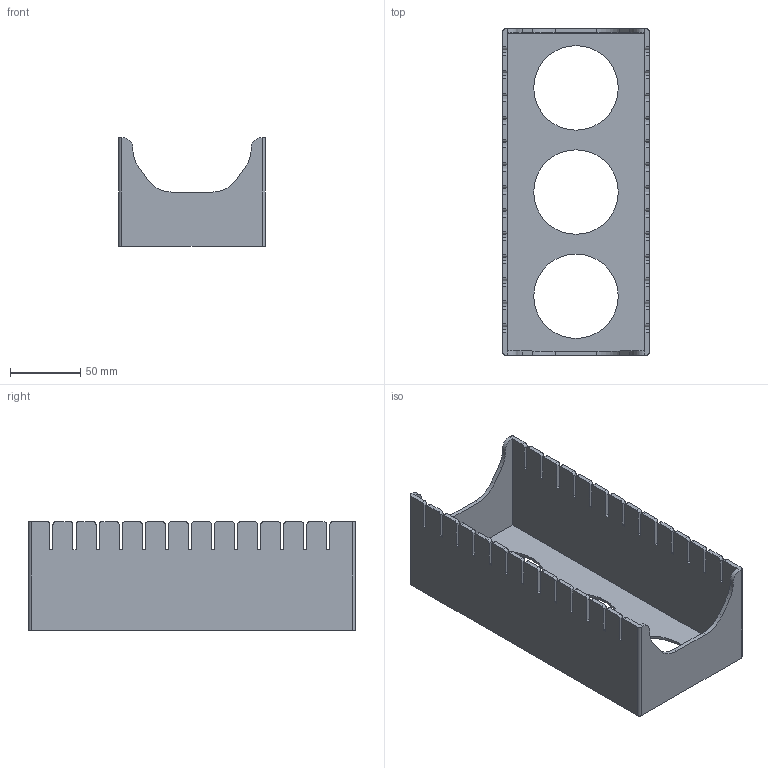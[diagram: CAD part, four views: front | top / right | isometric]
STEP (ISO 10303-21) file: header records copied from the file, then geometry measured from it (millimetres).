
FILE_DESCRIPTION(('Body'),'2;1');
FILE_NAME('Body','2026-09-06T09:16:22',('An Author'),('A Company'), 'Open CASCADE STEP processor 7.9','Dune 3D','Unknown');
FILE_SCHEMA(('AUTOMOTIVE_DESIGN { 1 0 10303 214 1 1 1 1 }'));
Length unit declared in the file: millimetre
Products named in the file (2): Earthborne Rangers - Card Tray; Body
Assembly tree (1 placements, depth 2):
  Earthborne Rangers - Card Tray
    Body
Bounding box: 104 x 232 x 77 mm (x, y, z)
Volume: 159064.1 mm3; surface area: 122103.6 mm2
Topology: 1 solids, 1 shells, 197 faces, 581 edges, 386 vertices
Faces by surface type: plane 126, cylinder 71
Full cylindrical faces by diameter (mm): 60 x3
Entity records: 14209 total; most frequent: CARTESIAN_POINT 2936, DIRECTION 2035, LINE 1283, VECTOR 1283, ORIENTED_EDGE 1162, PCURVE 1162, DEFINITIONAL_REPRESENTATION 1162, EDGE_CURVE 581
